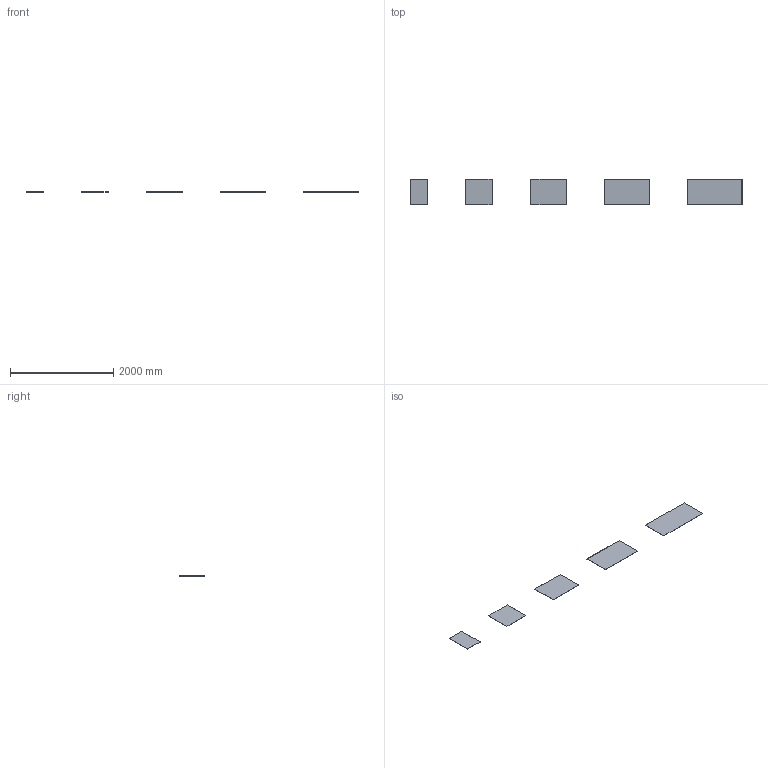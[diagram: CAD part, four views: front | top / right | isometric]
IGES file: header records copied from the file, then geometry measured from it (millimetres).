
Start section: Data from Parasolid IGES Translator 19.0.9, Copyright(c) 2006 Siemens PL M Software. All Rights Reserved.
Global section: file name: noorth-FJ-glass shelf.igs; native system: By Siemens PLM Incorporated; preprocessor: XPlus GENERIC/IGES 19.0.9; author: Noname; organization: Noname; date: 20200507.121238; units: metre
Bounding box: 6424.29 x 501.2 x 4 mm (x, y, z)
Volume: 6983610.4 mm3; surface area: 3534523 mm2
Topology: 5 solids, 5 shells, 70 faces, 140 edges, 80 vertices
Faces by surface type: plane 70
